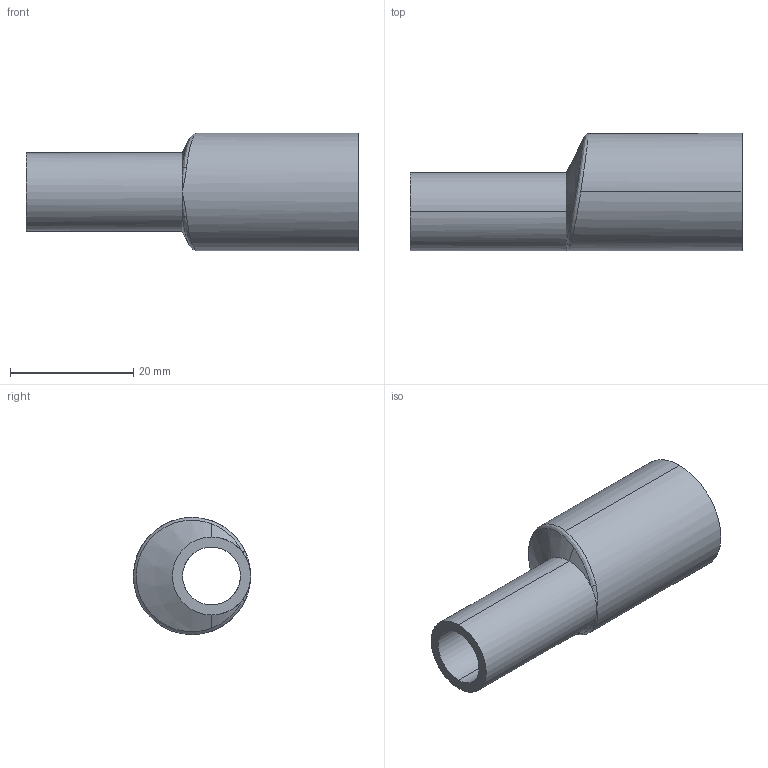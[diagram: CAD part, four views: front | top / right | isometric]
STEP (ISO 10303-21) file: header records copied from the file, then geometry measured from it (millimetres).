
FILE_DESCRIPTION (( 'STEP AP214' ), '1' );
FILE_NAME ('TE32SWW6L.375x.5-...STEP', '2016-06-01T07:28:59', ( 'eran' ), ( '' ), 'SwSTEP 2.0', 'SolidWorks 2016', '' );
FILE_SCHEMA (( 'AUTOMOTIVE_DESIGN' ));
Length unit declared in the file: millimetre
Products named in the file (1): TE32SWW6L.375x.5-..
Bounding box: 53.98 x 19.05 x 19.05 mm (x, y, z)
Volume: 5772 mm3; surface area: 4836.7 mm2
Topology: 1 solids, 1 shells, 20 faces, 47 edges, 27 vertices
Faces by surface type: cylinder 8, cone 5, bspline 3, torus 2, plane 2
Entity records: 1062 total; most frequent: CARTESIAN_POINT 600, ORIENTED_EDGE 90, DIRECTION 87, EDGE_CURVE 45, AXIS2_PLACEMENT_3D 38, VERTEX_POINT 27, EDGE_LOOP 22, FACE_OUTER_BOUND 20
